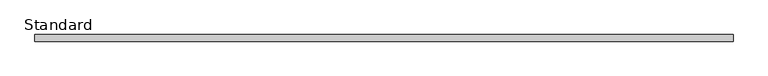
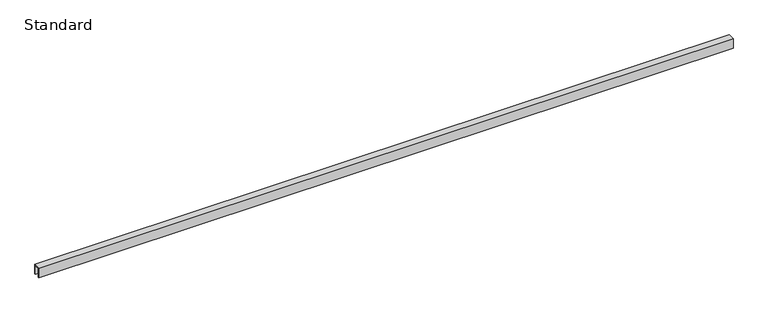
"""IFC4 building model written with IfcOpenShell, lengths in millimetres: furniture geometry, X_Partition-Channel-Duracube-Ceiling : Standard."""

from ifc_helpers import new_model, si_unit, frame, origin, place, context, project, spatial, polyline, outline, extrude, source, transform, mapped, element, save


def standard_246fb630(model_context):
    return source(origin(), model_context, "Body", "SweptSolid", [
        extrude(outline(polyline([(0.0, 0.0), (-2.0, 0.0), (-2.0, 24.0), (-15.0, 24.0), (-15.0, 0.0), (-17.0, 0.0), (-17.0, 26.0), (0.0, 26.0), (0.0, 0.0)])), frame((-855.2996736, 0.0, 0.0), z_axis=(1.0, 0.0, 0.0), x_axis=(0.0, 1.0, 0.0)), (0.0, 0.0, 1.0), 1800.0),
    ])


if __name__ == "__main__":
    model = new_model("IFC4")
    model_context = context("Model", 3, world=origin())
    ifc_project = project(units=[si_unit("LENGTHUNIT", "METRE", prefix="MILLI")], contexts=[model_context])
    site = spatial("IfcSite", under=ifc_project)
    building = spatial("IfcBuilding", under=site)
    placement = place(None, origin())
    standard_shape = standard_246fb630(model_context)
    element("IfcFurniture", 1, ObjectType="X_Partition-Channel-Duracube-Ceiling : Standard", at=placement, inside=building, context=model_context, shape_type="MappedRepresentation", body=[
        mapped(standard_shape, transform((0.0, 0.0, 0.0), x_axis=(1.0, 0.0, 0.0), y_axis=(0.0, 1.0, 0.0), z_axis=(0.0, 0.0, 1.0))),
    ])
    save(model, "model.ifc")
